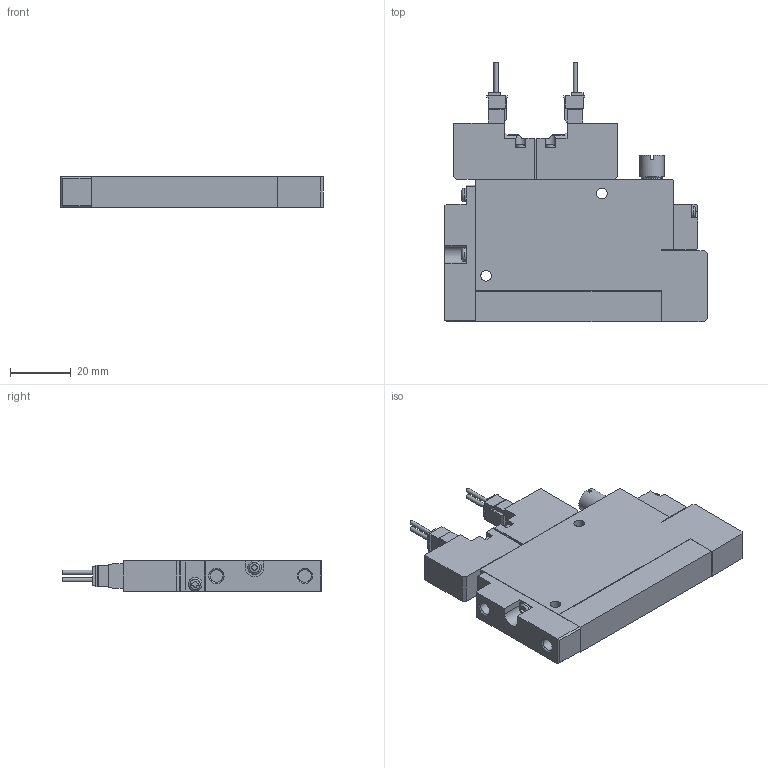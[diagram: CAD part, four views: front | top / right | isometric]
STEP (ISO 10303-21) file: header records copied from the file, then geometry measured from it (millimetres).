
FILE_DESCRIPTION(('STEP AP203'),'1');
FILE_NAME('5SC_3D.stp','2024-09-04T23:20:08',(' '),(' '),'Spatial InterOp 3D',' ',' ');
FILE_SCHEMA(('CONFIG_CONTROL_DESIGN'));
Length unit declared in the file: millimetre
Products named in the file (5): BSC1SXZZ※5SC; Solenoid valve S; Pressure Sensor ZZ; Unit-C; BaseSC10R
Assembly tree (4 placements, depth 2):
  BSC1SXZZ※5SC
    Solenoid valve S
    Pressure Sensor ZZ
    Unit-C
    BaseSC10R
Bounding box: 86 x 85.05 x 10 mm (x, y, z)
Volume: 47335.2 mm3; surface area: 16744.7 mm2
Topology: 4 solids, 4 shells, 356 faces, 954 edges, 630 vertices
Faces by surface type: plane 283, cylinder 60, cone 5, sphere 4, torus 4
Full cylindrical faces by diameter (mm): 1.4 x4, 3 x4, 3.5 x6, 4.134 x4, 4.5 x2, 5.5 x1, 7 x1, 8 x1
Entity records: 11136 total; most frequent: CARTESIAN_POINT 2075, ORIENTED_EDGE 1810, DIRECTION 1772, EDGE_CURVE 905, LINE 728, VECTOR 728, VERTEX_POINT 617, AXIS2_PLACEMENT_3D 522
